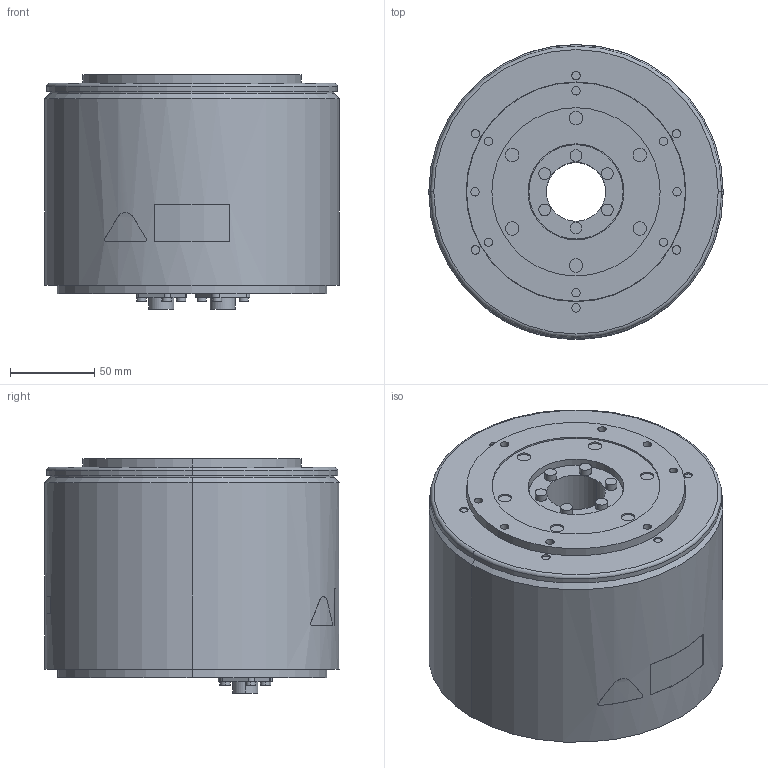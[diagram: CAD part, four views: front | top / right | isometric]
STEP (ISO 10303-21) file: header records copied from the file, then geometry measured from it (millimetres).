
FILE_DESCRIPTION (( 'STEP AP203' ), '1' );
FILE_NAME ('sgm7e_14c_a1_.STEP', '2016-03-23T07:27:01', ( '' ), ( '' ), 'SwSTEP 2.0', 'SolidWorks 2010', '' );
FILE_SCHEMA (( 'CONFIG_CONTROL_DESIGN' ));
Length unit declared in the file: millimetre
Products named in the file (1): sgm7e_14c_a1_
Bounding box: 175 x 175.1 x 139.1 mm (x, y, z)
Volume: 2908866.7 mm3; surface area: 138116.8 mm2
Topology: 1 solids, 1 shells, 294 faces, 646 edges, 428 vertices
Faces by surface type: cylinder 161, plane 122, bspline 5, cone 4, torus 2
Entity records: 8800 total; most frequent: CARTESIAN_POINT 1913, DIRECTION 1554, ORIENTED_EDGE 1292, EDGE_CURVE 646, AXIS2_PLACEMENT_3D 634, VERTEX_POINT 428, EDGE_LOOP 370, CIRCLE 344
